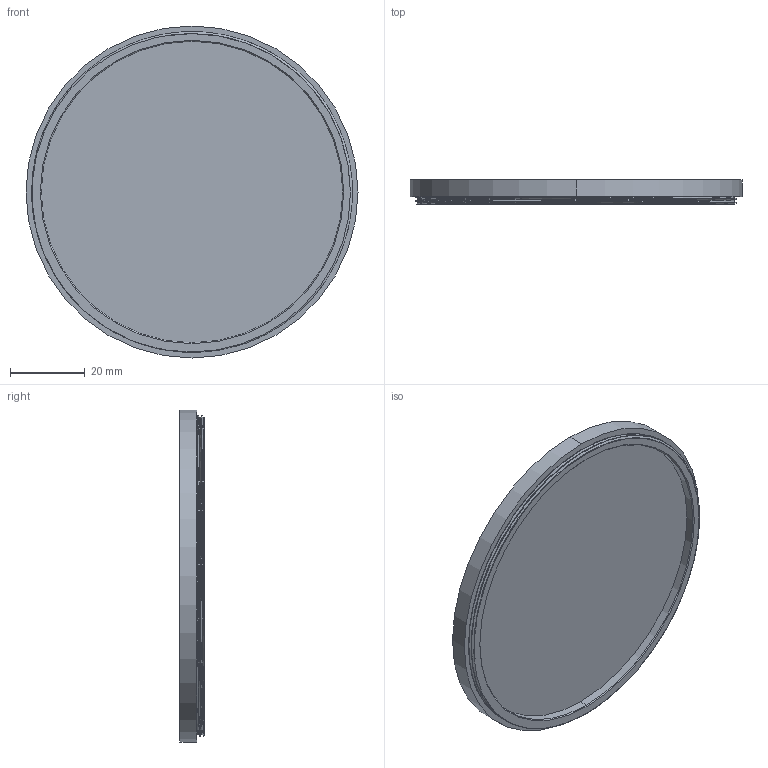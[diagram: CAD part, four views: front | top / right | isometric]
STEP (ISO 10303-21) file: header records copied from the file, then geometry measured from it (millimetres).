
FILE_DESCRIPTION (( 'STEP AP214' ), '1' );
FILE_NAME ('M86 x P1.STEP', '2023-01-19T08:18:28', ( '' ), ( '' ), 'SwSTEP 2.0', 'SolidWorks 2021', '' );
FILE_SCHEMA (( 'AUTOMOTIVE_DESIGN' ));
Length unit declared in the file: millimetre
Products named in the file (1): M86 x P1
Bounding box: 89 x 6.5 x 89 mm (x, y, z)
Volume: 6840.1 mm3; surface area: 18759.1 mm2
Topology: 3 solids, 3 shells, 45 faces, 107 edges, 71 vertices
Faces by surface type: cylinder 23, plane 11, bspline 9, cone 2
Entity records: 3033 total; most frequent: CARTESIAN_POINT 2045, ORIENTED_EDGE 214, DIRECTION 170, EDGE_CURVE 107, AXIS2_PLACEMENT_3D 71, VERTEX_POINT 71, EDGE_LOOP 52, ADVANCED_FACE 45
